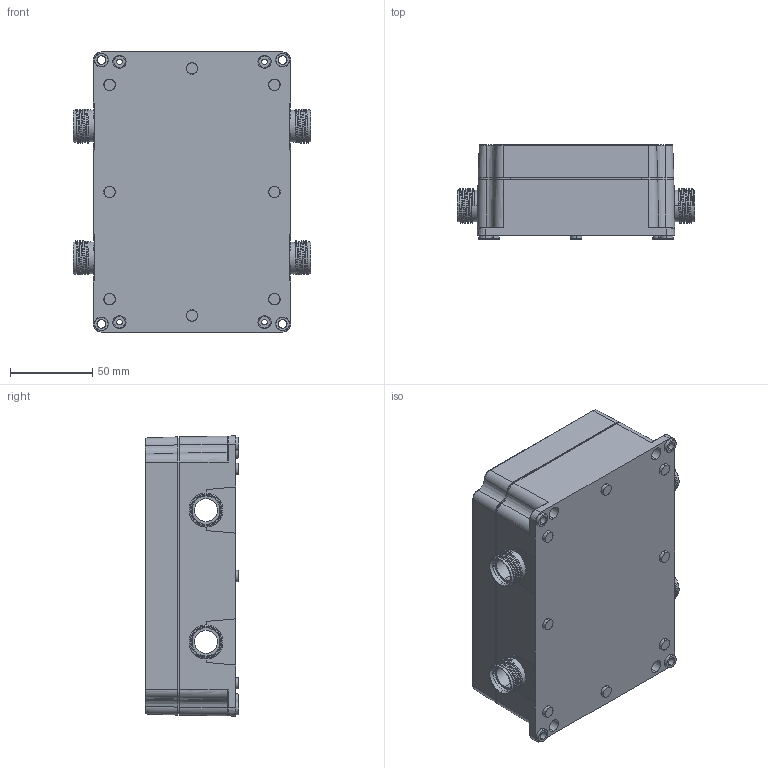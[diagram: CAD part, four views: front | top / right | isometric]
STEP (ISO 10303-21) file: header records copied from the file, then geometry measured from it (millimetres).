
FILE_DESCRIPTION (( 'STEP AP203' ), '1' );
FILE_NAME ('PB1712.STEP', '2022-07-19T13:00:41', ( '' ), ( '' ), 'SwSTEP 2.0', 'SolidWorks 2021', '' );
FILE_SCHEMA (( 'CONFIG_CONTROL_DESIGN' ));
Length unit declared in the file: millimetre
Products named in the file (3): PB1712
Assembly tree (2 placements, depth 2):
  PB1712
    PB1712
    PB1712
Bounding box: 144 x 57 x 170 mm (x, y, z)
Volume: 228953.3 mm3; surface area: 160324.2 mm2
Topology: 3 solids, 3 shells, 776 faces, 1936 edges, 1240 vertices
Faces by surface type: cylinder 268, plane 252, cone 148, torus 56, bspline 52
Entity records: 36307 total; most frequent: CARTESIAN_POINT 17493, DIRECTION 3914, ORIENTED_EDGE 3872, EDGE_CURVE 1936, AXIS2_PLACEMENT_3D 1505, VERTEX_POINT 1240, LINE 904, VECTOR 904
